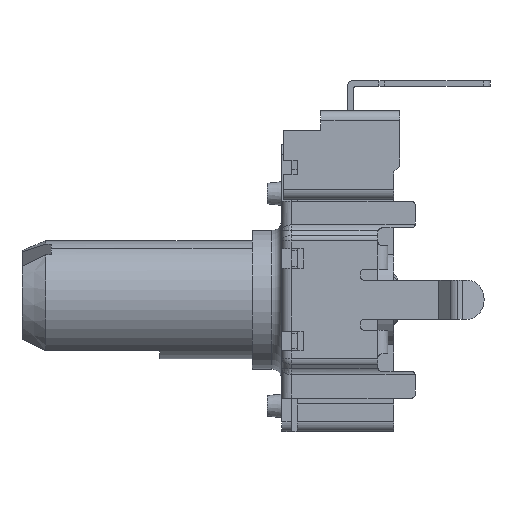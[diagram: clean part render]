
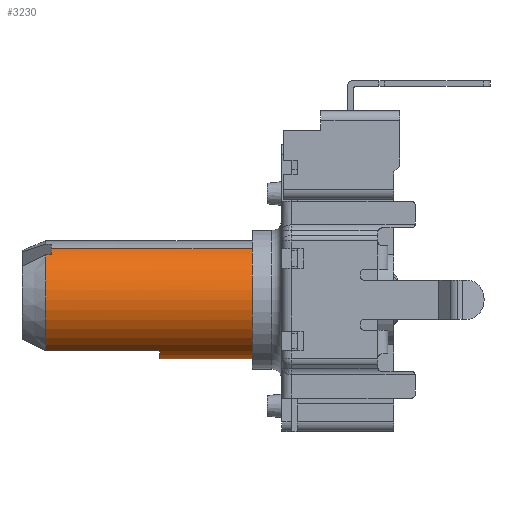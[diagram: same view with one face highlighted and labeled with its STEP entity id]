
A CAD part, left-side view. The second image highlights one B-rep face of the part: STEP entity #3230.
In plain terms, the highlighted cylindrical face has radius 3 mm (diameter 6 mm), a partial arc.
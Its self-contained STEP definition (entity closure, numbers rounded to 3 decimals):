
#106 = DIRECTION ( 'NONE',  ( 0., 1., 0. ) ) ;
#386 = EDGE_CURVE ( 'NONE', #9006, #4639, #16634, .T. ) ;
#1132 = CARTESIAN_POINT ( 'NONE',  ( 0., 2.5, 0. ) ) ;
#1291 = CARTESIAN_POINT ( 'NONE',  ( 0., 15.1, 0. ) ) ;
#1368 = CIRCLE ( 'NONE', #5849, 3. ) ;
#1423 = LINE ( 'NONE', #12096, #1680 ) ;
#1680 = VECTOR ( 'NONE', #4290, 1000. ) ;
#1840 = EDGE_CURVE ( 'NONE', #7530, #16365, #2491, .T. ) ;
#1880 = VECTOR ( 'NONE', #3242, 1000. ) ;
#2137 = DIRECTION ( 'NONE',  ( 0., -1., 0. ) ) ;
#2212 = EDGE_LOOP ( 'NONE', ( #8619, #4194, #3401, #11842, #14429, #9055, #11167, #17119 ) ) ;
#2408 = VERTEX_POINT ( 'NONE', #9603 ) ;
#2491 = CIRCLE ( 'NONE', #5004, 3. ) ;
#3230 = ADVANCED_FACE ( 'NONE', ( #7693 ), #10468, .T. ) ;
#3242 = DIRECTION ( 'NONE',  ( 0., -1., 0. ) ) ;
#3401 = ORIENTED_EDGE ( 'NONE', *, *, #13165, .T. ) ;
#3525 = EDGE_CURVE ( 'NONE', #12990, #7530, #1423, .T. ) ;
#3773 = CARTESIAN_POINT ( 'NONE',  ( 0.55, 15.1, -2.949 ) ) ;
#3819 = EDGE_CURVE ( 'NONE', #15388, #2408, #8761, .T. ) ;
#3948 = DIRECTION ( 'NONE',  ( 0., 1., 0. ) ) ;
#4194 = ORIENTED_EDGE ( 'NONE', *, *, #386, .T. ) ;
#4272 = CARTESIAN_POINT ( 'NONE',  ( 0., 14.8, 0. ) ) ;
#4290 = DIRECTION ( 'NONE',  ( 0., 1., 0. ) ) ;
#4639 = VERTEX_POINT ( 'NONE', #11520 ) ;
#5004 = AXIS2_PLACEMENT_3D ( 'NONE', #12923, #6012, #14149 ) ;
#5713 = CARTESIAN_POINT ( 'NONE',  ( 0.55, 15.1, -2.949 ) ) ;
#5801 = AXIS2_PLACEMENT_3D ( 'NONE', #1132, #11882, #8906 ) ;
#5849 = AXIS2_PLACEMENT_3D ( 'NONE', #4272, #3948, #13413 ) ;
#6012 = DIRECTION ( 'NONE',  ( 0., 1., 0. ) ) ;
#6013 = EDGE_CURVE ( 'NONE', #16365, #8507, #11950, .T. ) ;
#7530 = VERTEX_POINT ( 'NONE', #16610 ) ;
#7563 = CARTESIAN_POINT ( 'NONE',  ( 0.533, 15., -2.952 ) ) ;
#7693 = FACE_OUTER_BOUND ( 'NONE', #2212, .T. ) ;
#8042 = CARTESIAN_POINT ( 'NONE',  ( 0., 9.3, 3. ) ) ;
#8507 = VERTEX_POINT ( 'NONE', #13415 ) ;
#8619 = ORIENTED_EDGE ( 'NONE', *, *, #13733, .F. ) ;
#8761 = LINE ( 'NONE', #14121, #16503 ) ;
#8906 = DIRECTION ( 'NONE',  ( 0., 0., 1. ) ) ;
#9006 = VERTEX_POINT ( 'NONE', #8042 ) ;
#9055 = ORIENTED_EDGE ( 'NONE', *, *, #6013, .F. ) ;
#9603 = CARTESIAN_POINT ( 'NONE',  ( 0., 2.5, -3. ) ) ;
#10468 = CYLINDRICAL_SURFACE ( 'NONE', #11740, 3. ) ;
#10558 = DIRECTION ( 'NONE',  ( 0., -1., 0. ) ) ;
#11167 = ORIENTED_EDGE ( 'NONE', *, *, #1840, .F. ) ;
#11400 = CIRCLE ( 'NONE', #5801, 3. ) ;
#11520 = CARTESIAN_POINT ( 'NONE',  ( 0., 2.5, 3. ) ) ;
#11740 = AXIS2_PLACEMENT_3D ( 'NONE', #1291, #10558, #16001 ) ;
#11842 = ORIENTED_EDGE ( 'NONE', *, *, #3819, .F. ) ;
#11882 = DIRECTION ( 'NONE',  ( 0., 1., 0. ) ) ;
#11950 =( BOUNDED_CURVE ( )  B_SPLINE_CURVE ( 3, ( #3773, #7563, #17176, #13340 ),
 .UNSPECIFIED., .F., .T. ) 
 B_SPLINE_CURVE_WITH_KNOTS ( ( 4, 4 ),
 ( 4.528, 4.545 ),
 .UNSPECIFIED. ) 
 CURVE ( )  GEOMETRIC_REPRESENTATION_ITEM ( )  RATIONAL_B_SPLINE_CURVE ( ( 1., 1., 1., 1. ) ) 
 REPRESENTATION_ITEM ( '' )  );
#12096 = CARTESIAN_POINT ( 'NONE',  ( 2.598, 9.3, 1.5 ) ) ;
#12687 = CARTESIAN_POINT ( 'NONE',  ( 2.598, 9.3, 1.5 ) ) ;
#12923 = CARTESIAN_POINT ( 'NONE',  ( 0., 15.1, 0. ) ) ;
#12990 = VERTEX_POINT ( 'NONE', #12687 ) ;
#13165 = EDGE_CURVE ( 'NONE', #4639, #2408, #11400, .T. ) ;
#13265 = CARTESIAN_POINT ( 'NONE',  ( 0., 9.3, 0. ) ) ;
#13340 = CARTESIAN_POINT ( 'NONE',  ( 0.5, 14.8, -2.958 ) ) ;
#13360 = DIRECTION ( 'NONE',  ( 0., 0., 1. ) ) ;
#13413 = DIRECTION ( 'NONE',  ( 0., 0., -1. ) ) ;
#13415 = CARTESIAN_POINT ( 'NONE',  ( 0.5, 14.8, -2.958 ) ) ;
#13733 = EDGE_CURVE ( 'NONE', #9006, #12990, #15847, .T. ) ;
#14121 = CARTESIAN_POINT ( 'NONE',  ( 0., 15.1, -3. ) ) ;
#14149 = DIRECTION ( 'NONE',  ( 0., 0., 1. ) ) ;
#14429 = ORIENTED_EDGE ( 'NONE', *, *, #16778, .F. ) ;
#15247 = CARTESIAN_POINT ( 'NONE',  ( 0., 15.1, 3. ) ) ;
#15388 = VERTEX_POINT ( 'NONE', #15775 ) ;
#15775 = CARTESIAN_POINT ( 'NONE',  ( 0., 14.8, -3. ) ) ;
#15847 = CIRCLE ( 'NONE', #17232, 3. ) ;
#16001 = DIRECTION ( 'NONE',  ( 0., 0., -1. ) ) ;
#16365 = VERTEX_POINT ( 'NONE', #5713 ) ;
#16503 = VECTOR ( 'NONE', #2137, 1000. ) ;
#16610 = CARTESIAN_POINT ( 'NONE',  ( 2.598, 15.1, 1.5 ) ) ;
#16634 = LINE ( 'NONE', #15247, #1880 ) ;
#16778 = EDGE_CURVE ( 'NONE', #8507, #15388, #1368, .T. ) ;
#17119 = ORIENTED_EDGE ( 'NONE', *, *, #3525, .F. ) ;
#17176 = CARTESIAN_POINT ( 'NONE',  ( 0.517, 14.9, -2.955 ) ) ;
#17232 = AXIS2_PLACEMENT_3D ( 'NONE', #13265, #106, #13360 ) ;
